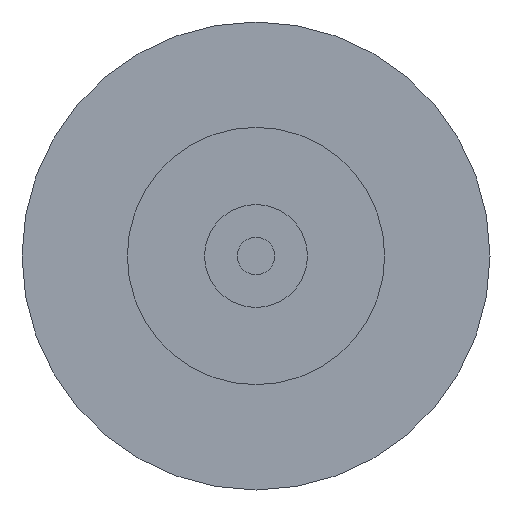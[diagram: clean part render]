
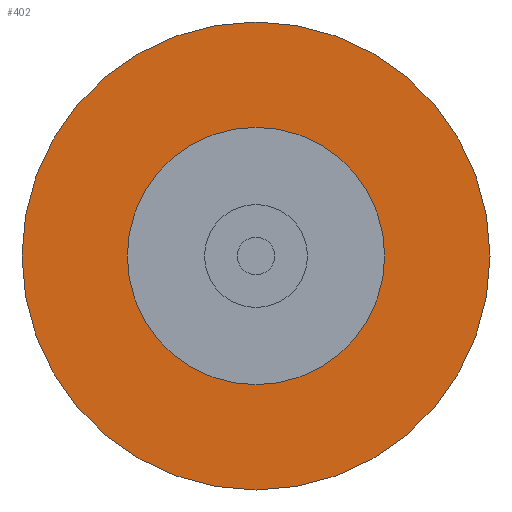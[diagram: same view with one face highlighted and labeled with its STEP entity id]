
A CAD part, left-side view. The second image highlights one B-rep face of the part: STEP entity #402.
In plain terms, the highlighted planar face has unit normal (-1, 0, 0).
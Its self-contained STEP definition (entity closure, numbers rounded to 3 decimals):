
#85=CARTESIAN_POINT('',(-15.,0.,0.));
#86=DIRECTION('',(-1.,0.,0.));
#87=DIRECTION('',(0.,0.,-1.));
#88=AXIS2_PLACEMENT_3D('',#85,#86,#87);
#90=CARTESIAN_POINT('',(-15.,0.,0.));
#91=DIRECTION('',(1.,0.,0.));
#92=DIRECTION('',(0.,0.,-1.));
#93=AXIS2_PLACEMENT_3D('',#90,#91,#92);
#95=CARTESIAN_POINT('',(-15.,0.,0.));
#96=DIRECTION('',(1.,0.,0.));
#97=DIRECTION('',(0.,0.,-1.));
#98=AXIS2_PLACEMENT_3D('',#95,#96,#97);
#108=CARTESIAN_POINT('',(-15.,0.,0.));
#109=DIRECTION('',(-1.,0.,0.));
#110=DIRECTION('',(0.,0.,-1.));
#111=AXIS2_PLACEMENT_3D('',#108,#109,#110);
#206=CARTESIAN_POINT('',(-15.,0.,-50.));
#208=VERTEX_POINT('',#206);
#209=CARTESIAN_POINT('',(-15.,0.,-27.5));
#211=VERTEX_POINT('',#209);
#226=CARTESIAN_POINT('',(-15.,0.,50.));
#228=VERTEX_POINT('',#226);
#229=CARTESIAN_POINT('',(-15.,0.,27.5));
#231=VERTEX_POINT('',#229);
#387=CARTESIAN_POINT('',(-15.,0.,0.));
#388=DIRECTION('',(1.,0.,0.));
#389=DIRECTION('',(0.,0.,1.));
#390=AXIS2_PLACEMENT_3D('',#387,#388,#389);
#391=PLANE('',#390);
#392=ORIENTED_EDGE('',*,*,#380,.F.);
#393=ORIENTED_EDGE('',*,*,#369,.T.);
#394=EDGE_LOOP('',(#392,#393));
#395=FACE_OUTER_BOUND('',#394,.F.);
#397=ORIENTED_EDGE('',*,*,#396,.F.);
#399=ORIENTED_EDGE('',*,*,#398,.T.);
#400=EDGE_LOOP('',(#397,#399));
#401=FACE_BOUND('',#400,.F.);
#402=ADVANCED_FACE('',(#395,#401),#391,.F.);
#89=CIRCLE('',#88,50.);
#94=CIRCLE('',#93,50.);
#99=CIRCLE('',#98,27.5);
#112=CIRCLE('',#111,27.5);
#369=EDGE_CURVE('',#208,#228,#94,.T.);
#380=EDGE_CURVE('',#208,#228,#89,.T.);
#396=EDGE_CURVE('',#211,#231,#99,.T.);
#398=EDGE_CURVE('',#211,#231,#112,.T.);
